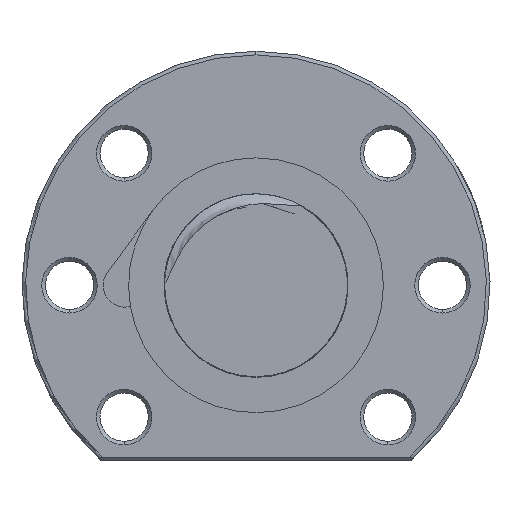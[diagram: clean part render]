
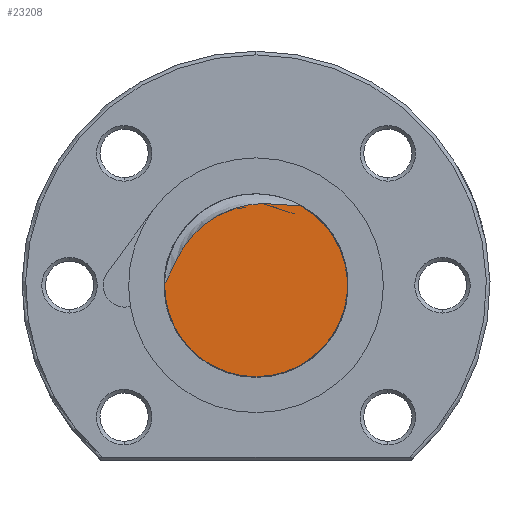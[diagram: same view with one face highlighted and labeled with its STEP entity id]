
A CAD part, left-side view. The second image highlights one B-rep face of the part: STEP entity #23208.
In plain terms, the highlighted planar face has unit normal (-1, 0, 0).
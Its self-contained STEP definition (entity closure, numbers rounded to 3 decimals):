
#531 = DIRECTION ( 'NONE',  ( 0., 0., -1. ) ) ;
#532 = DIRECTION ( 'NONE',  ( 1., 0., 0. ) ) ;
#533 = CARTESIAN_POINT ( 'NONE',  ( -130., 0., 0. ) ) ;
#534 = AXIS2_PLACEMENT_3D ( 'NONE', #533, #532, #531 ) ;
#535 = PLANE ( 'NONE',  #534 ) ;
#536 = FACE_OUTER_BOUND ( 'NONE', #23209, .T. ) ;
#1725 = DIRECTION ( 'NONE',  ( 0., 1., 0. ) ) ;
#1726 = DIRECTION ( 'NONE',  ( 1., 0., 0. ) ) ;
#1727 = CARTESIAN_POINT ( 'NONE',  ( -130., 0., 0. ) ) ;
#1728 = AXIS2_PLACEMENT_3D ( 'NONE', #1727, #1726, #1725 ) ;
#1729 = CARTESIAN_POINT ( 'NONE',  ( -130., -6.111, 10.904 ) ) ;
#1955 = CIRCLE ( 'NONE', #1728, 12.5 ) ;
#3372 = DIRECTION ( 'NONE',  ( 0., 1., 0. ) ) ;
#3426 = DIRECTION ( 'NONE',  ( 1., 0., 0. ) ) ;
#3427 = CARTESIAN_POINT ( 'NONE',  ( -130., 0., 0. ) ) ;
#3428 = AXIS2_PLACEMENT_3D ( 'NONE', #3427, #3426, #3372 ) ;
#3429 = CIRCLE ( 'NONE', #3428, 12.5 ) ;
#3430 = CARTESIAN_POINT ( 'NONE',  ( -130., 0., -12.5 ) ) ;
#11137 = CARTESIAN_POINT ( 'NONE',  ( -130., 12.499, 0.161 ) ) ;
#18826 = CARTESIAN_POINT ( 'NONE',  ( -130., 12.499, 0.161 ) ) ;
#18827 = CARTESIAN_POINT ( 'NONE',  ( -130., 12.417, 0.254 ) ) ;
#18828 = CARTESIAN_POINT ( 'NONE',  ( -130., 12.35, 0.359 ) ) ;
#18829 = CARTESIAN_POINT ( 'NONE',  ( -130., 12.225, 0.572 ) ) ;
#18830 = CARTESIAN_POINT ( 'NONE',  ( -130., 12.169, 0.683 ) ) ;
#18831 = CARTESIAN_POINT ( 'NONE',  ( -130., 12.006, 1.017 ) ) ;
#18832 = CARTESIAN_POINT ( 'NONE',  ( -130., 11.907, 1.244 ) ) ;
#18833 = CARTESIAN_POINT ( 'NONE',  ( -130., 11.612, 1.926 ) ) ;
#18834 = CARTESIAN_POINT ( 'NONE',  ( -130., 11.418, 2.382 ) ) ;
#18835 = CARTESIAN_POINT ( 'NONE',  ( -130., 10.792, 3.724 ) ) ;
#18836 = CARTESIAN_POINT ( 'NONE',  ( -130., 10.318, 4.587 ) ) ;
#18837 = CARTESIAN_POINT ( 'NONE',  ( -130., 9.473, 5.803 ) ) ;
#18838 = CARTESIAN_POINT ( 'NONE',  ( -130., 9.168, 6.197 ) ) ;
#18839 = CARTESIAN_POINT ( 'NONE',  ( -130., 8.518, 6.953 ) ) ;
#18840 = CARTESIAN_POINT ( 'NONE',  ( -130., 8.175, 7.31 ) ) ;
#18841 = CARTESIAN_POINT ( 'NONE',  ( -130., 7.453, 7.982 ) ) ;
#18842 = CARTESIAN_POINT ( 'NONE',  ( -130., 7.075, 8.298 ) ) ;
#18843 = CARTESIAN_POINT ( 'NONE',  ( -130., 6.281, 8.886 ) ) ;
#18844 = CARTESIAN_POINT ( 'NONE',  ( -130., 5.864, 9.16 ) ) ;
#18845 = CARTESIAN_POINT ( 'NONE',  ( -130., 4.568, 9.907 ) ) ;
#18846 = CARTESIAN_POINT ( 'NONE',  ( -130., 3.664, 10.3 ) ) ;
#18847 = CARTESIAN_POINT ( 'NONE',  ( -130., 2.247, 10.735 ) ) ;
#18848 = CARTESIAN_POINT ( 'NONE',  ( -130., 1.762, 10.854 ) ) ;
#18849 = CARTESIAN_POINT ( 'NONE',  ( -130., 0.783, 11.039 ) ) ;
#18850 = CARTESIAN_POINT ( 'NONE',  ( -130., 0.292, 11.104 ) ) ;
#18851 = CARTESIAN_POINT ( 'NONE',  ( -130., -1.18, 11.228 ) ) ;
#18852 = CARTESIAN_POINT ( 'NONE',  ( -130., -2.164, 11.209 ) ) ;
#18853 = CARTESIAN_POINT ( 'NONE',  ( -130., -3.642, 11.08 ) ) ;
#18854 = CARTESIAN_POINT ( 'NONE',  ( -130., -4.134, 11.019 ) ) ;
#18855 = CARTESIAN_POINT ( 'NONE',  ( -130., -4.874, 10.933 ) ) ;
#18856 = CARTESIAN_POINT ( 'NONE',  ( -130., -5.12, 10.905 ) ) ;
#18857 = CARTESIAN_POINT ( 'NONE',  ( -130., -5.491, 10.879 ) ) ;
#18858 = CARTESIAN_POINT ( 'NONE',  ( -130., -5.615, 10.873 ) ) ;
#18859 = CARTESIAN_POINT ( 'NONE',  ( -130., -5.864, 10.874 ) ) ;
#18860 = CARTESIAN_POINT ( 'NONE',  ( -130., -5.99, 10.88 ) ) ;
#18861 = CARTESIAN_POINT ( 'NONE',  ( -130., -6.111, 10.904 ) ) ;
#18862 = B_SPLINE_CURVE_WITH_KNOTS ( 'NONE', 3,
 ( #18861, #18860, #18859, #18858, #18857, #18856, #18855, #18854, #18853, #18852, #18851, #18850, #18849, #18848, #18847, #18846, #18845, #18844, #18843, #18842, #18841, #18840, #18839, #18838, #18837, #18836, #18835, #18834, #18833, #18832, #18831, #18830, #18829, #18828, #18827, #18826 ),
 .UNSPECIFIED., .F., .F.,
 ( 4, 2, 2, 2, 2, 2, 2, 2, 2, 2, 2, 2, 2, 2, 2, 2, 2, 4 ),
 ( 0.002, 0.003, 0.003, 0.004, 0.005, 0.008, 0.01, 0.011, 0.014, 0.016, 0.017, 0.019, 0.02, 0.023, 0.025, 0.025, 0.026, 0.026 ),
 .UNSPECIFIED. ) ;
#22977 = VERTEX_POINT ( 'NONE', #11137 ) ;
#23174 = EDGE_CURVE ( 'NONE', #23331, #22977, #18862, .T. ) ;
#23175 = ORIENTED_EDGE ( 'NONE', *, *, #23490, .F. ) ;
#23208 = ADVANCED_FACE ( 'NONE', ( #536 ), #535, .F. ) ;
#23209 = EDGE_LOOP ( 'NONE', ( #23210, #23211, #23175 ) ) ;
#23210 = ORIENTED_EDGE ( 'NONE', *, *, #23330, .F. ) ;
#23211 = ORIENTED_EDGE ( 'NONE', *, *, #23174, .T. ) ;
#23330 = EDGE_CURVE ( 'NONE', #23331, #23488, #1955, .T. ) ;
#23331 = VERTEX_POINT ( 'NONE', #1729 ) ;
#23488 = VERTEX_POINT ( 'NONE', #3430 ) ;
#23490 = EDGE_CURVE ( 'NONE', #23488, #22977, #3429, .T. ) ;
